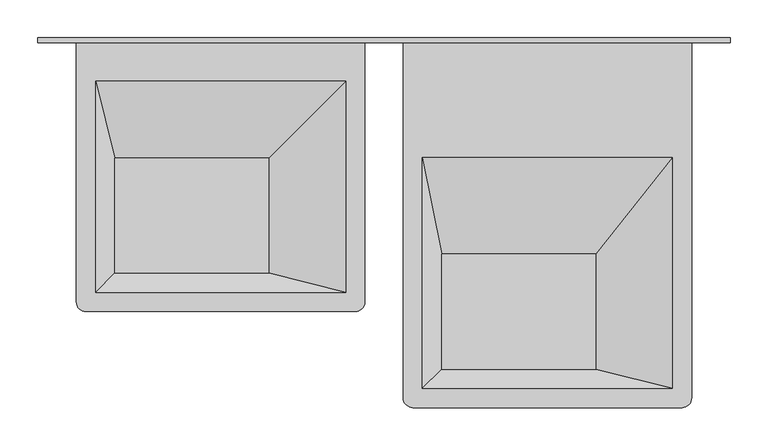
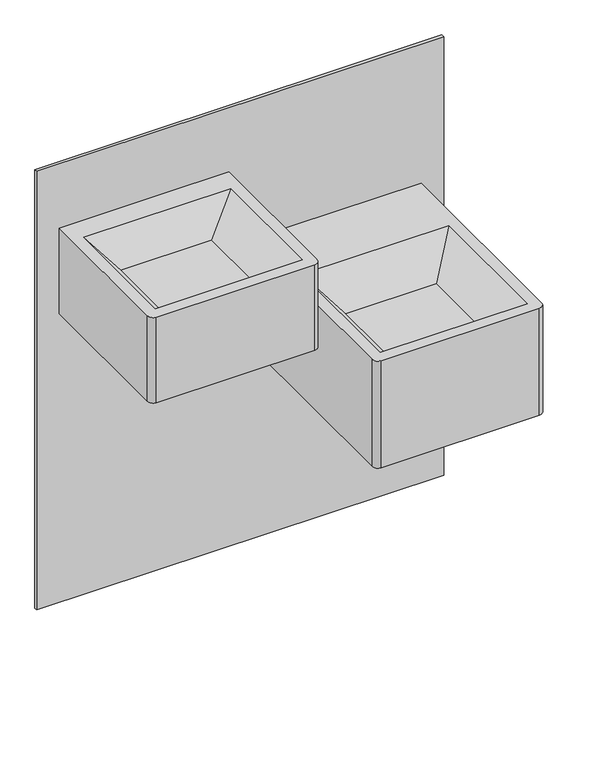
"""IFC4 building model written with IfcOpenShell, lengths in millimetres: flow terminal geometry, Drinking Fountain-Hi-Lo-3D : Drinking Fountain-Hi-Lo-3D."""

from ifc_helpers import new_model, si_unit, frame, origin, place, context, project, spatial, polyline, circle_curve, outline, extrude, source, transform, mapped, element, save
from ifc_brep_helpers import plane_surface, cylinder_surface, advanced_brep


def flow_terminal_8a1848b0(model_context):
    return source(origin(), model_context, "Body", "SolidModel", [
        advanced_brep(
        [(-37.5185542, -68.2625, 1193.8), (-418.5185542, -68.2625, 1193.8), (-418.5185542, -411.1625, 1193.8), (-405.8185542, -423.8625, 1193.8), (-50.2185542, -423.8625, 1193.8), (-37.5185542, -411.1625, 1193.8), (-393.1185542, -398.4625, 1193.8), (-393.1185542, -119.0625, 1193.8), (-62.9185542, -119.0625, 1193.8), (-62.9185542, -398.4625, 1193.8), (-37.5185542, -68.2625, 990.6), (-37.5185542, -411.1625, 990.6), (-50.2185542, -423.8625, 990.6), (-405.8185542, -423.8625, 990.6), (-418.5185542, -411.1625, 990.6), (-418.5185542, -68.2625, 990.6), (-164.5185542, -373.0625, 1168.4), (-164.5185542, -220.6625, 1168.4), (-367.7185542, -220.6625, 1168.4), (-367.7185542, -373.0625, 1168.4)],
        [
            (0, 1),
            (1, 2),
            (2, 3, circle_curve(frame((-405.8185542, -411.1625, 1193.8), z_axis=(0.0, 0.0, 1.0), x_axis=(0.0, -1.0, 0.0)), 12.7)),
            (3, 4),
            (4, 5, circle_curve(frame((-50.2185542, -411.1625, 1193.8), z_axis=(0.0, 0.0, 1.0), x_axis=(0.0, -1.0, 0.0)), 12.7)),
            (5, 0),
            (6, 7),
            (7, 8),
            (8, 9),
            (9, 6),
            (10, 11),
            (11, 12, circle_curve(frame((-50.2185542, -411.1625, 990.6), z_axis=(0.0, 0.0, -1.0), x_axis=(0.0, -1.0, 0.0)), 12.7)),
            (12, 13),
            (13, 14, circle_curve(frame((-405.8185542, -411.1625, 990.6), z_axis=(0.0, 0.0, -1.0), x_axis=(0.0, -1.0, 0.0)), 12.7)),
            (14, 15),
            (15, 10),
            (5, 11),
            (10, 0),
            (4, 12),
            (3, 13),
            (2, 14),
            (1, 15),
            (16, 17),
            (17, 18),
            (18, 19),
            (19, 16),
            (19, 6),
            (9, 16),
            (18, 7),
            (17, 8),
        ],
        [
            plane_surface(frame((-37.5185542, -68.2625, 1193.8), z_axis=(0.0, 0.0, 1.0), x_axis=(0.0, -1.0, 0.0))),
            plane_surface(frame((-37.5185542, -68.2625, 990.6), z_axis=(0.0, 0.0, -1.0), x_axis=(0.0, 1.0, 0.0))),
            plane_surface(frame((-37.5185542, -68.2625, 1193.8), z_axis=(1.0, 0.0, 0.0), x_axis=(0.0, 0.0, -1.0))),
            cylinder_surface(frame((-50.2185542, -411.1625, 990.6), z_axis=(0.0, 0.0, 1.0), x_axis=(0.0, -1.0, 0.0)), 12.7),
            plane_surface(frame((-50.2185542, -423.8625, 1193.8), z_axis=(0.0, -1.0, 0.0), x_axis=(0.0, 0.0, -1.0))),
            cylinder_surface(frame((-405.8185542, -411.1625, 990.6), z_axis=(0.0, 0.0, 1.0), x_axis=(0.0, -1.0, 0.0)), 12.7),
            plane_surface(frame((-418.5185542, -411.1625, 1193.8), z_axis=(-1.0, 0.0, 0.0), x_axis=(0.0, 0.0, -1.0))),
            plane_surface(frame((-418.5185542, -68.2625, 1193.8), z_axis=(0.0, 1.0, 0.0), x_axis=(0.0, 0.0, -1.0))),
            plane_surface(frame((-266.1185542, -296.8625, 1168.4), z_axis=(0.0, 0.0, 1.0), x_axis=(-1.0, 0.0, 0.0))),
            plane_surface(frame((-266.1185542, -373.0625, 1168.4), z_axis=(0.0, 0.7071067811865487, 0.7071067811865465), x_axis=(-1.0, 0.0, 0.0))),
            plane_surface(frame((-367.7185542, -296.8625, 1168.4), z_axis=(0.7071067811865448, 0.0, 0.7071067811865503), x_axis=(0.0, 1.0, 0.0))),
            plane_surface(frame((-266.1185542, -220.6625, 1168.4), z_axis=(0.0, -0.24253562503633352, 0.9701425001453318), x_axis=(1.0, 0.0, 0.0))),
            plane_surface(frame((-164.5185542, -296.8625, 1168.4), z_axis=(-0.24253562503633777, 0.0, 0.9701425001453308), x_axis=(0.0, -1.0, 0.0))),
        ],
        [
            (0, [[1, 2, 3, 4, 5, 6], [7, 8, 9, 10]]),
            (1, [[11, 12, 13, 14, 15, 16]]),
            (2, [[17, -11, 18, -6]]),
            (3, [[19, -12, -17, -5]]),
            (4, [[20, -13, -19, -4]]),
            (5, [[21, -14, -20, -3]]),
            (6, [[22, -15, -21, -2]]),
            (7, [[-18, -16, -22, -1]]),
            (8, [[23, 24, 25, 26]]),
            (9, [[27, -10, 28, -26]]),
            (10, [[29, -7, -27, -25]]),
            (11, [[30, -8, -29, -24]]),
            (12, [[-28, -9, -30, -23]]),
        ],
    ),
        advanced_brep(
        [(394.2814458, -68.2625, 1016.0), (13.2814458, -68.2625, 1016.0), (13.2814458, -538.1625, 1016.0), (25.9814458, -550.8625, 1016.0), (381.5814458, -550.8625, 1016.0), (394.2814458, -538.1625, 1016.0), (38.6814458, -525.1112458, 1016.0), (38.6814458, -220.3112458, 1016.0), (368.8814458, -220.3112458, 1016.0), (368.8814458, -525.1112458, 1016.0), (394.2814458, -68.2625, 762.0), (394.2814458, -538.1625, 762.0), (381.5814458, -550.8625, 762.0), (25.9814458, -550.8625, 762.0), (13.2814458, -538.1625, 762.0), (13.2814458, -68.2625, 762.0), (267.2814458, -500.0625, 990.6), (267.2814458, -347.6625, 990.6), (64.0814458, -347.6625, 990.6), (64.0814458, -500.0625, 990.6)],
        [
            (0, 1),
            (1, 2),
            (2, 3, circle_curve(frame((25.9814458, -538.1625, 1016.0), z_axis=(0.0, 0.0, 1.0), x_axis=(0.0, -1.0, 0.0)), 12.7)),
            (3, 4),
            (4, 5, circle_curve(frame((381.5814458, -538.1625, 1016.0), z_axis=(0.0, 0.0, 1.0), x_axis=(0.0, -1.0, 0.0)), 12.7)),
            (5, 0),
            (6, 7),
            (7, 8),
            (8, 9),
            (9, 6),
            (10, 11),
            (11, 12, circle_curve(frame((381.5814458, -538.1625, 762.0), z_axis=(0.0, 0.0, -1.0), x_axis=(0.0, -1.0, 0.0)), 12.7)),
            (12, 13),
            (13, 14, circle_curve(frame((25.9814458, -538.1625, 762.0), z_axis=(0.0, 0.0, -1.0), x_axis=(0.0, -1.0, 0.0)), 12.7)),
            (14, 15),
            (15, 10),
            (5, 11),
            (10, 0),
            (4, 12),
            (3, 13),
            (2, 14),
            (1, 15),
            (16, 17),
            (17, 18),
            (18, 19),
            (19, 16),
            (19, 6),
            (9, 16),
            (18, 7),
            (17, 8),
        ],
        [
            plane_surface(frame((394.2814458, -68.2625, 1016.0), z_axis=(0.0, 0.0, 1.0), x_axis=(0.0, -1.0, 0.0))),
            plane_surface(frame((394.2814458, -68.2625, 762.0), z_axis=(0.0, 0.0, -1.0), x_axis=(0.0, 1.0, 0.0))),
            plane_surface(frame((394.2814458, -68.2625, 1016.0), z_axis=(1.0, 0.0, 0.0), x_axis=(0.0, 0.0, -1.0))),
            cylinder_surface(frame((381.5814458, -538.1625, 762.0), z_axis=(0.0, 0.0, 1.0), x_axis=(0.0, -1.0, 0.0)), 12.7),
            plane_surface(frame((381.5814458, -550.8625, 1016.0), z_axis=(0.0, -1.0, 0.0), x_axis=(0.0, 0.0, -1.0))),
            cylinder_surface(frame((25.9814458, -538.1625, 762.0), z_axis=(0.0, 0.0, 1.0), x_axis=(0.0, -1.0, 0.0)), 12.7),
            plane_surface(frame((13.2814458, -538.1625, 1016.0), z_axis=(-1.0, 0.0, 0.0), x_axis=(0.0, 0.0, -1.0))),
            plane_surface(frame((13.2814458, -68.2625, 1016.0), z_axis=(0.0, 1.0, 0.0), x_axis=(0.0, 0.0, -1.0))),
            plane_surface(frame((165.6814458, -423.8625, 990.6), z_axis=(0.0, 0.0, 1.0), x_axis=(-1.0, 0.0, 0.0))),
            plane_surface(frame((165.6814458, -500.0625, 990.6), z_axis=(0.0, 0.712012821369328, 0.7021664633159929), x_axis=(-1.0, 0.0, 0.0))),
            plane_surface(frame((64.0814458, -423.8625, 990.6), z_axis=(0.7071067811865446, 0.0, 0.7071067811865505), x_axis=(0.0, 1.0, 0.0))),
            plane_surface(frame((165.6814458, -347.6625, 990.6), z_axis=(0.0, -0.1955959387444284, 0.9806845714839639), x_axis=(1.0, 0.0, 0.0))),
            plane_surface(frame((267.2814458, -423.8625, 990.6), z_axis=(-0.2425356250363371, 0.0, 0.9701425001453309), x_axis=(0.0, -1.0, 0.0))),
        ],
        [
            (0, [[1, 2, 3, 4, 5, 6], [7, 8, 9, 10]]),
            (1, [[11, 12, 13, 14, 15, 16]]),
            (2, [[17, -11, 18, -6]]),
            (3, [[19, -12, -17, -5]]),
            (4, [[20, -13, -19, -4]]),
            (5, [[21, -14, -20, -3]]),
            (6, [[22, -15, -21, -2]]),
            (7, [[-18, -16, -22, -1]]),
            (8, [[23, 24, 25, 26]]),
            (9, [[27, -10, 28, -26]]),
            (10, [[29, -7, -27, -25]]),
            (11, [[30, -8, -29, -24]]),
            (12, [[-28, -9, -30, -23]]),
        ],
    ),
        extrude(outline(polyline([(-469.3185542, -68.2625), (-469.3185542, -61.9125), (445.0814458, -61.9125), (445.0814458, -68.2625), (-469.3185542, -68.2625)])), frame((0.0, 0.0, 305.0046103), z_axis=(0.0, 0.0, 1.0), x_axis=(1.0, 0.0, 0.0)), (0.0, 0.0, 1.0), 1041.4),
    ])


if __name__ == "__main__":
    model = new_model("IFC4")
    model_context = context("Model", 3, world=origin())
    ifc_project = project(units=[si_unit("LENGTHUNIT", "METRE", prefix="MILLI")], contexts=[model_context])
    site = spatial("IfcSite", under=ifc_project)
    building = spatial("IfcBuilding", under=site)
    placement = place(None, origin())
    flow_terminal_shape = flow_terminal_8a1848b0(model_context)
    element("IfcFlowTerminal", 1, ObjectType="Drinking Fountain-Hi-Lo-3D : Drinking Fountain-Hi-Lo-3D", at=placement, inside=building, context=model_context, shape_type="MappedRepresentation", body=[
        mapped(flow_terminal_shape, transform((0.0, 0.0, 0.0), x_axis=(1.0, 0.0, 0.0), y_axis=(0.0, 1.0, 0.0), z_axis=(0.0, 0.0, 1.0))),
    ])
    save(model, "model.ifc")
